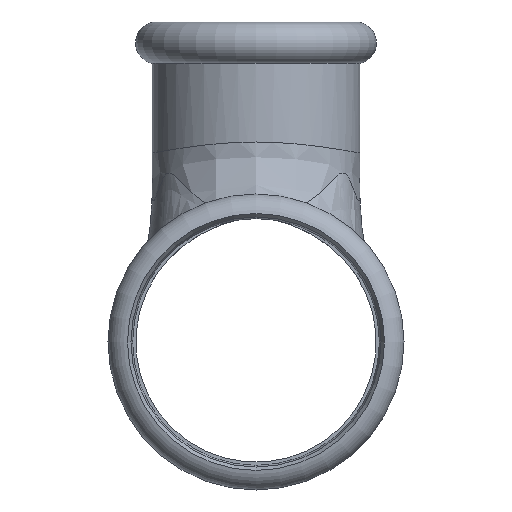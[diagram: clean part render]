
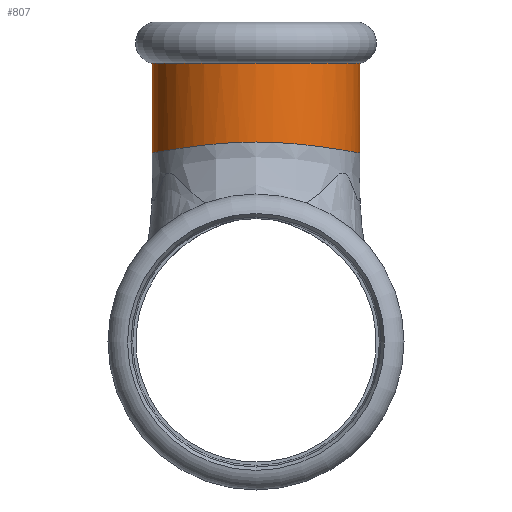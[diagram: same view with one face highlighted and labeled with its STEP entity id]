
A CAD part, left-side view. The second image highlights one B-rep face of the part: STEP entity #807.
In plain terms, the highlighted cylindrical face has radius 22.7 mm (diameter 45.4 mm), a full revolution.
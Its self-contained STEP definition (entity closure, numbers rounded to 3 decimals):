
#43=B_SPLINE_CURVE_WITH_KNOTS('',3,(#2223,#2224,#2225,#2226,#2227,#2228,
#2229,#2230,#2231,#2232,#2233,#2234,#2235,#2236,#2237,#2238),
 .UNSPECIFIED.,.F.,.F.,(4,2,2,2,2,2,2,4),(-0.014,0.,0.45,
0.902,1.802,2.689,3.536,3.57),
 .UNSPECIFIED.);
#51=B_SPLINE_CURVE_WITH_KNOTS('',3,(#2344,#2345,#2346,#2347,#2348,#2349,
#2350,#2351,#2352,#2353,#2354,#2355,#2356,#2357,#2358,#2359),
 .UNSPECIFIED.,.F.,.F.,(4,2,2,2,2,2,2,4),(-0.034,0.,
0.846,1.732,2.632,3.084,3.534,
3.548),.UNSPECIFIED.);
#74=B_SPLINE_CURVE_WITH_KNOTS('',3,(#5221,#5222,#5223,#5224,#5225,#5226,
#5227,#5228,#5229,#5230,#5231,#5232,#5233,#5234),.UNSPECIFIED.,.F.,.F.,
(4,2,2,2,2,2,4),(-0.034,0.,0.884,1.783,
2.67,3.516,3.55),.UNSPECIFIED.);
#76=B_SPLINE_CURVE_WITH_KNOTS('',3,(#5253,#5254,#5255,#5256,#5257,#5258,
#5259,#5260,#5261,#5262,#5263,#5264,#5265,#5266,#5267,#5268),
 .UNSPECIFIED.,.F.,.F.,(4,2,2,2,2,2,2,4),(-0.034,0.,0.846,
1.732,2.632,3.084,3.534,3.548),
 .UNSPECIFIED.);
#94=LINE('',#5605,#108);
#108=VECTOR('',#1124,22.7);
#121=CYLINDRICAL_SURFACE('',#921,22.7);
#158=FACE_OUTER_BOUND('',#201,.T.);
#201=EDGE_LOOP('',(#732,#733,#734,#735,#736,#737,#738,#739,#740));
#205=CIRCLE('',#832,22.7);
#206=CIRCLE('',#833,22.7);
#211=CIRCLE('',#838,22.7);
#276=VERTEX_POINT('',#1143);
#277=VERTEX_POINT('',#1144);
#278=VERTEX_POINT('',#1146);
#331=VERTEX_POINT('',#2221);
#332=VERTEX_POINT('',#2222);
#339=VERTEX_POINT('',#2318);
#355=VERTEX_POINT('',#5220);
#370=EDGE_CURVE('',#276,#277,#205,.T.);
#371=EDGE_CURVE('',#277,#278,#206,.T.);
#376=EDGE_CURVE('',#278,#276,#211,.T.);
#438=EDGE_CURVE('',#331,#332,#43,.T.);
#446=EDGE_CURVE('',#332,#339,#51,.T.);
#469=EDGE_CURVE('',#339,#355,#74,.T.);
#471=EDGE_CURVE('',#355,#331,#76,.T.);
#494=EDGE_CURVE('',#277,#331,#94,.T.);
#732=ORIENTED_EDGE('',*,*,#370,.F.);
#733=ORIENTED_EDGE('',*,*,#376,.F.);
#734=ORIENTED_EDGE('',*,*,#371,.F.);
#735=ORIENTED_EDGE('',*,*,#494,.T.);
#736=ORIENTED_EDGE('',*,*,#438,.T.);
#737=ORIENTED_EDGE('',*,*,#446,.T.);
#738=ORIENTED_EDGE('',*,*,#469,.T.);
#739=ORIENTED_EDGE('',*,*,#471,.T.);
#740=ORIENTED_EDGE('',*,*,#494,.F.);
#807=ADVANCED_FACE('',(#158),#121,.T.);
#832=AXIS2_PLACEMENT_3D('',#1145,#933,#934);
#833=AXIS2_PLACEMENT_3D('',#1147,#935,#936);
#838=AXIS2_PLACEMENT_3D('',#1155,#945,#946);
#921=AXIS2_PLACEMENT_3D('',#5604,#1122,#1123);
#933=DIRECTION('center_axis',(0.,0.,1.));
#934=DIRECTION('ref_axis',(0.,1.,0.));
#935=DIRECTION('center_axis',(0.,0.,1.));
#936=DIRECTION('ref_axis',(0.,1.,0.));
#945=DIRECTION('center_axis',(0.,0.,1.));
#946=DIRECTION('ref_axis',(0.,1.,0.));
#1122=DIRECTION('center_axis',(0.,0.,1.));
#1123=DIRECTION('ref_axis',(0.,1.,0.));
#1124=DIRECTION('',(0.,0.,-1.));
#1143=CARTESIAN_POINT('',(0.,22.7,60.936));
#1144=CARTESIAN_POINT('',(0.,-22.7,60.936));
#1145=CARTESIAN_POINT('Origin',(0.,0.,60.936));
#1146=CARTESIAN_POINT('',(22.7,0.,60.936));
#1147=CARTESIAN_POINT('Origin',(0.,0.,60.936));
#1155=CARTESIAN_POINT('Origin',(0.,0.,60.936));
#2221=CARTESIAN_POINT('',(0.,-22.7,41.41));
#2222=CARTESIAN_POINT('',(22.7,0.,43.75));
#2223=CARTESIAN_POINT('Ctrl Pts',(0.,-22.7,41.41));
#2224=CARTESIAN_POINT('Ctrl Pts',(0.046,-22.7,41.409));
#2225=CARTESIAN_POINT('Ctrl Pts',(0.092,-22.7,
41.408));
#2226=CARTESIAN_POINT('Ctrl Pts',(1.639,-22.69,41.378));
#2227=CARTESIAN_POINT('Ctrl Pts',(3.135,-22.532,41.391));
#2228=CARTESIAN_POINT('Ctrl Pts',(6.078,-21.923,41.483));
#2229=CARTESIAN_POINT('Ctrl Pts',(7.517,-21.472,41.561));
#2230=CARTESIAN_POINT('Ctrl Pts',(11.655,-19.709,41.863));
#2231=CARTESIAN_POINT('Ctrl Pts',(14.146,-18.003,42.154));
#2232=CARTESIAN_POINT('Ctrl Pts',(18.289,-13.764,42.77));
#2233=CARTESIAN_POINT('Ctrl Pts',(19.918,-11.279,43.092));
#2234=CARTESIAN_POINT('Ctrl Pts',(22.087,-5.947,43.575));
#2235=CARTESIAN_POINT('Ctrl Pts',(22.655,-3.164,43.737));
#2236=CARTESIAN_POINT('Ctrl Pts',(22.699,-0.229,43.75));
#2237=CARTESIAN_POINT('Ctrl Pts',(22.7,-0.115,43.75));
#2238=CARTESIAN_POINT('Ctrl Pts',(22.7,0.,43.75));
#2318=CARTESIAN_POINT('',(0.,22.7,41.41));
#2344=CARTESIAN_POINT('Ctrl Pts',(22.7,0.,43.75));
#2345=CARTESIAN_POINT('Ctrl Pts',(22.7,0.115,43.75));
#2346=CARTESIAN_POINT('Ctrl Pts',(22.699,0.229,43.75));
#2347=CARTESIAN_POINT('Ctrl Pts',(22.655,3.164,43.737));
#2348=CARTESIAN_POINT('Ctrl Pts',(22.087,5.947,43.575));
#2349=CARTESIAN_POINT('Ctrl Pts',(19.918,11.279,43.092));
#2350=CARTESIAN_POINT('Ctrl Pts',(18.289,13.764,42.77));
#2351=CARTESIAN_POINT('Ctrl Pts',(14.146,18.003,42.154));
#2352=CARTESIAN_POINT('Ctrl Pts',(11.655,19.709,41.863));
#2353=CARTESIAN_POINT('Ctrl Pts',(7.517,21.472,41.561));
#2354=CARTESIAN_POINT('Ctrl Pts',(6.078,21.923,41.483));
#2355=CARTESIAN_POINT('Ctrl Pts',(3.135,22.532,41.391));
#2356=CARTESIAN_POINT('Ctrl Pts',(1.639,22.69,41.378));
#2357=CARTESIAN_POINT('Ctrl Pts',(0.092,22.7,41.408));
#2358=CARTESIAN_POINT('Ctrl Pts',(0.046,22.7,41.409));
#2359=CARTESIAN_POINT('Ctrl Pts',(0.,22.7,41.41));
#5220=CARTESIAN_POINT('',(-22.7,0.,43.75));
#5221=CARTESIAN_POINT('Ctrl Pts',(0.,22.7,41.41));
#5222=CARTESIAN_POINT('Ctrl Pts',(-0.114,22.7,41.407));
#5223=CARTESIAN_POINT('Ctrl Pts',(-0.228,22.699,41.405));
#5224=CARTESIAN_POINT('Ctrl Pts',(-3.286,22.653,41.354));
#5225=CARTESIAN_POINT('Ctrl Pts',(-6.193,22.036,41.464));
#5226=CARTESIAN_POINT('Ctrl Pts',(-11.655,19.709,41.863));
#5227=CARTESIAN_POINT('Ctrl Pts',(-14.146,18.003,42.154));
#5228=CARTESIAN_POINT('Ctrl Pts',(-18.289,13.764,42.77));
#5229=CARTESIAN_POINT('Ctrl Pts',(-19.918,11.279,43.092));
#5230=CARTESIAN_POINT('Ctrl Pts',(-22.087,5.947,43.575));
#5231=CARTESIAN_POINT('Ctrl Pts',(-22.655,3.164,43.737));
#5232=CARTESIAN_POINT('Ctrl Pts',(-22.699,0.229,43.75));
#5233=CARTESIAN_POINT('Ctrl Pts',(-22.7,0.115,43.75));
#5234=CARTESIAN_POINT('Ctrl Pts',(-22.7,0.,43.75));
#5253=CARTESIAN_POINT('Ctrl Pts',(-22.7,0.,43.75));
#5254=CARTESIAN_POINT('Ctrl Pts',(-22.7,-0.115,43.75));
#5255=CARTESIAN_POINT('Ctrl Pts',(-22.699,-0.229,
43.75));
#5256=CARTESIAN_POINT('Ctrl Pts',(-22.655,-3.164,43.737));
#5257=CARTESIAN_POINT('Ctrl Pts',(-22.087,-5.947,43.575));
#5258=CARTESIAN_POINT('Ctrl Pts',(-19.918,-11.279,43.092));
#5259=CARTESIAN_POINT('Ctrl Pts',(-18.289,-13.764,42.77));
#5260=CARTESIAN_POINT('Ctrl Pts',(-14.146,-18.003,42.154));
#5261=CARTESIAN_POINT('Ctrl Pts',(-11.655,-19.709,41.863));
#5262=CARTESIAN_POINT('Ctrl Pts',(-7.517,-21.472,41.561));
#5263=CARTESIAN_POINT('Ctrl Pts',(-6.078,-21.923,41.483));
#5264=CARTESIAN_POINT('Ctrl Pts',(-3.135,-22.532,41.391));
#5265=CARTESIAN_POINT('Ctrl Pts',(-1.639,-22.69,41.378));
#5266=CARTESIAN_POINT('Ctrl Pts',(-0.092,-22.7,
41.408));
#5267=CARTESIAN_POINT('Ctrl Pts',(-0.046,-22.7,41.409));
#5268=CARTESIAN_POINT('Ctrl Pts',(0.,-22.7,41.41));
#5604=CARTESIAN_POINT('Origin',(0.,0.,50.468));
#5605=CARTESIAN_POINT('',(0.,-22.7,50.468));
